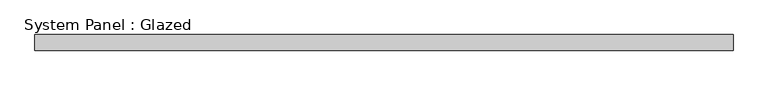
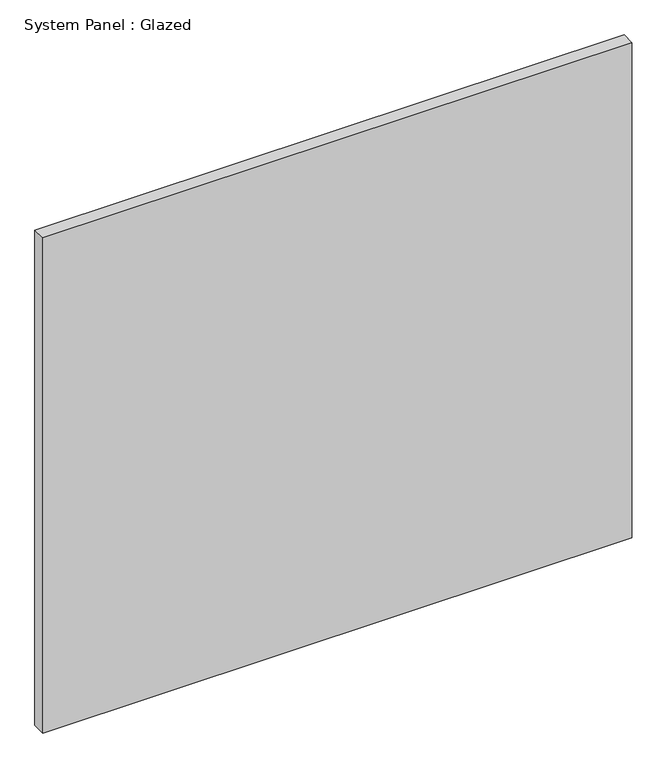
"""IFC4 building model written with IfcOpenShell, lengths in millimetres: plate geometry, System Panel : Glazed."""

from ifc_helpers import new_model, si_unit, origin, origin_with_axes, place, context, project, spatial, polyline, outline, extrude, source, transform, mapped, element, save


def system_panel_glazed_ef01c168(model_context):
    return source(origin(), model_context, "Body", "SweptSolid", [
        extrude(outline(polyline([(551.18, 19.05), (-551.18, 19.05), (-551.18, 44.45), (551.18, 44.45), (551.18, 19.05)])), origin_with_axes(), (0.0, 0.0, 1.0), 979.723638),
    ])


if __name__ == "__main__":
    model = new_model("IFC4")
    model_context = context("Model", 3, world=origin())
    ifc_project = project(units=[si_unit("LENGTHUNIT", "METRE", prefix="MILLI")], contexts=[model_context])
    site = spatial("IfcSite", under=ifc_project)
    building = spatial("IfcBuilding", under=site)
    placement = place(None, origin())
    system_panel_glazed_shape = system_panel_glazed_ef01c168(model_context)
    element("IfcPlate", 1, ObjectType="System Panel : Glazed", at=placement, inside=building, context=model_context, shape_type="MappedRepresentation", body=[
        mapped(system_panel_glazed_shape, transform((0.0, 0.0, 0.0), x_axis=(1.0, 0.0, 0.0), y_axis=(0.0, 1.0, 0.0), z_axis=(0.0, 0.0, 1.0))),
    ])
    save(model, "model.ifc")
